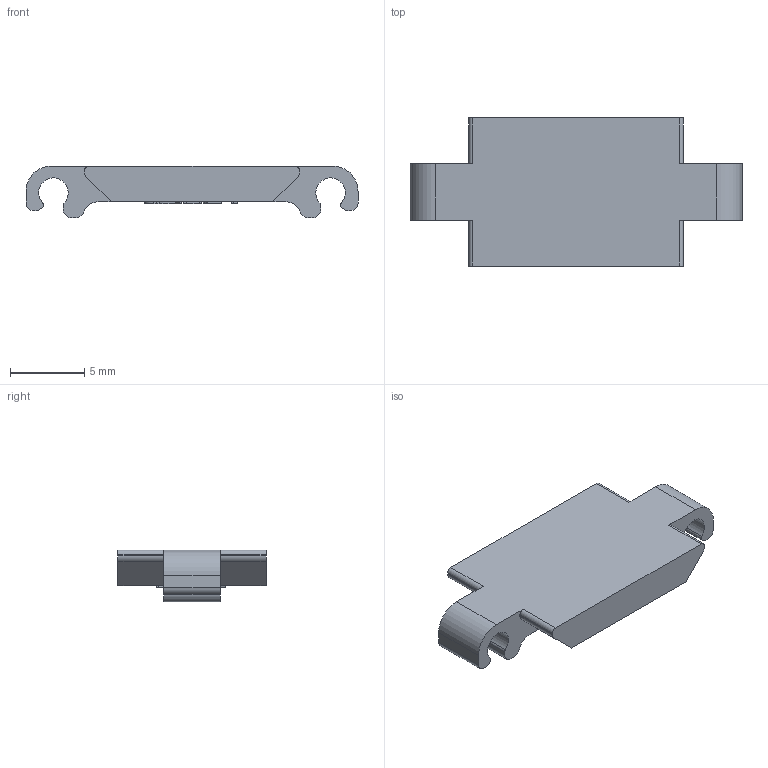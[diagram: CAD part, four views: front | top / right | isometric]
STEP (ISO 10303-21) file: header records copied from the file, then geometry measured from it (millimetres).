
FILE_DESCRIPTION((''),'2; 1');
FILE_NAME('','2026-03-26T10:12:52',(''),(''),'CST STEP Exporter V1.0','Unknown','');
FILE_SCHEMA(('CONFIG_CONTROL_DESIGN'));
Length unit declared in the file: metre
Bounding box: 22.4 x 10 x 3.5 mm (x, y, z)
Surface area: 529.5 mm2 (no closed solid volume)
Topology: 0 solids, 1 shells, 143 faces, 396 edges, 264 vertices
Faces by surface type: plane 99, cylinder 28, extrusion 16
Entity records: 6008 total; most frequent: CARTESIAN_POINT 1280, ORIENTED_EDGE 792, DIRECTION 662, EDGE_CURVE 396, VECTOR 314, LINE 298, VERTEX_POINT 264, AXIS2_PLACEMENT_3D 174
